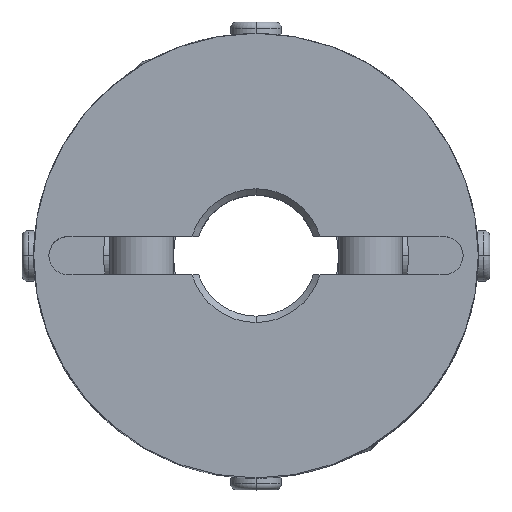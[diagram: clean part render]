
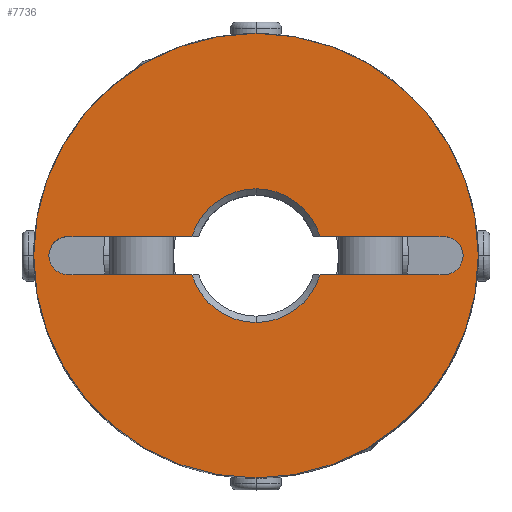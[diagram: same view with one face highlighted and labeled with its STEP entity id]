
A CAD part, top view. The second image highlights one B-rep face of the part: STEP entity #7736.
In plain terms, the highlighted planar face has unit normal (0, 0, 1).
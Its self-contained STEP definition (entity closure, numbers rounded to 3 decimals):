
#785=CARTESIAN_POINT('',(0.,17.5,17.5));
#786=VERTEX_POINT('',#785);
#793=CARTESIAN_POINT('',(0.,-17.5,17.5));
#794=VERTEX_POINT('',#793);
#795=CARTESIAN_POINT('',(0.0,0.0,17.5));
#796=DIRECTION('',(0.0,0.0,-1.0));
#797=DIRECTION('',(0.0,-1.0,0.0));
#798=AXIS2_PLACEMENT_3D('',#795,#796,#797);
#799=CIRCLE('',#798,17.5);
#800=EDGE_CURVE('',#786,#794,#799,.T.);
#1115=CARTESIAN_POINT('',(15.861,1.061,17.5));
#1116=VERTEX_POINT('',#1115);
#1132=CARTESIAN_POINT('',(14.8,-1.5,17.5));
#1133=VERTEX_POINT('',#1132);
#1140=CARTESIAN_POINT('',(14.8,0.,17.5));
#1141=DIRECTION('',(0.0,0.0,1.0));
#1142=DIRECTION('',(0.707,-0.707,0.0));
#1143=AXIS2_PLACEMENT_3D('',#1140,#1141,#1142);
#1144=CIRCLE('',#1143,1.5);
#1145=EDGE_CURVE('',#1133,#1116,#1144,.T.);
#1157=CARTESIAN_POINT('',(-15.861,-1.061,17.5));
#1158=VERTEX_POINT('',#1157);
#1174=CARTESIAN_POINT('',(-14.8,1.5,17.5));
#1175=VERTEX_POINT('',#1174);
#1182=CARTESIAN_POINT('',(-14.8,0.,17.5));
#1183=DIRECTION('',(0.0,0.0,1.0));
#1184=DIRECTION('',(-0.707,0.707,0.0));
#1185=AXIS2_PLACEMENT_3D('',#1182,#1183,#1184);
#1186=CIRCLE('',#1185,1.5);
#1187=EDGE_CURVE('',#1175,#1158,#1186,.T.);
#2307=CARTESIAN_POINT('',(0.,5.262,17.5));
#2308=VERTEX_POINT('',#2307);
#2316=CARTESIAN_POINT('',(5.044,1.5,17.5));
#2317=VERTEX_POINT('',#2316);
#2331=CARTESIAN_POINT('',(0.,0.,17.5));
#2332=DIRECTION('',(0.0,0.0,1.0));
#2333=DIRECTION('',(0.0,1.0,0.0));
#2334=AXIS2_PLACEMENT_3D('',#2331,#2332,#2333);
#2335=CIRCLE('',#2334,5.263);
#2336=EDGE_CURVE('',#2317,#2308,#2335,.T.);
#2346=CARTESIAN_POINT('',(0.,-5.263,17.5));
#2347=VERTEX_POINT('',#2346);
#2363=CARTESIAN_POINT('',(-5.044,-1.5,17.5));
#2364=VERTEX_POINT('',#2363);
#2378=CARTESIAN_POINT('',(0.,0.,17.5));
#2379=DIRECTION('',(0.0,0.0,1.0));
#2380=DIRECTION('',(0.0,-1.0,0.0));
#2381=AXIS2_PLACEMENT_3D('',#2378,#2379,#2380);
#2382=CIRCLE('',#2381,5.263);
#2383=EDGE_CURVE('',#2364,#2347,#2382,.T.);
#7452=CARTESIAN_POINT('',(14.8,1.5,17.5));
#7453=VERTEX_POINT('',#7452);
#7460=CARTESIAN_POINT('',(5.044,1.5,17.5));
#7461=DIRECTION('',(1.0,0.0,0.0));
#7462=VECTOR('',#7461,9.756);
#7463=LINE('',#7460,#7462);
#7464=EDGE_CURVE('',#2317,#7453,#7463,.T.);
#7621=CARTESIAN_POINT('',(5.044,-1.5,17.5));
#7622=VERTEX_POINT('',#7621);
#7636=CARTESIAN_POINT('',(14.8,-1.5,17.5));
#7637=DIRECTION('',(-1.0,0.0,0.0));
#7638=VECTOR('',#7637,9.756);
#7639=LINE('',#7636,#7638);
#7640=EDGE_CURVE('',#1133,#7622,#7639,.T.);
#7663=CARTESIAN_POINT('',(0.,0.,17.5));
#7664=DIRECTION('',(0.0,0.0,1.0));
#7665=DIRECTION('',(0.0,-1.0,0.0));
#7666=AXIS2_PLACEMENT_3D('',#7663,#7664,#7665);
#7667=CIRCLE('',#7666,5.263);
#7668=EDGE_CURVE('',#2347,#7622,#7667,.T.);
#7675=CARTESIAN_POINT('',(0.,-1.591,17.5));
#7676=DIRECTION('',(0.0,0.0,1.0));
#7677=DIRECTION('',(0.0,-1.0,0.0));
#7678=AXIS2_PLACEMENT_3D('',#7675,#7676,#7677);
#7679=PLANE('',#7678);
#7680=CARTESIAN_POINT('',(0.0,0.0,17.5));
#7681=DIRECTION('',(0.0,0.0,-1.0));
#7682=DIRECTION('',(0.0,-1.0,0.0));
#7683=AXIS2_PLACEMENT_3D('',#7680,#7681,#7682);
#7684=CIRCLE('',#7683,17.5);
#7685=EDGE_CURVE('',#794,#786,#7684,.T.);
#7686=ORIENTED_EDGE('',*,*,#7685,.F.);
#7687=ORIENTED_EDGE('',*,*,#800,.F.);
#7688=EDGE_LOOP('',(#7686,#7687));
#7689=FACE_OUTER_BOUND('',#7688,.T.);
#7690=ORIENTED_EDGE('',*,*,#2383,.F.);
#7691=CARTESIAN_POINT('',(-14.8,-1.5,17.5));
#7692=VERTEX_POINT('',#7691);
#7693=CARTESIAN_POINT('',(-5.044,-1.5,17.5));
#7694=DIRECTION('',(-1.0,0.0,0.0));
#7695=VECTOR('',#7694,9.756);
#7696=LINE('',#7693,#7695);
#7697=EDGE_CURVE('',#2364,#7692,#7696,.T.);
#7698=ORIENTED_EDGE('',*,*,#7697,.T.);
#7699=CARTESIAN_POINT('',(-14.8,0.,17.5));
#7700=DIRECTION('',(0.0,0.0,1.0));
#7701=DIRECTION('',(-0.707,0.707,0.0));
#7702=AXIS2_PLACEMENT_3D('',#7699,#7700,#7701);
#7703=CIRCLE('',#7702,1.5);
#7704=EDGE_CURVE('',#1158,#7692,#7703,.T.);
#7705=ORIENTED_EDGE('',*,*,#7704,.F.);
#7706=ORIENTED_EDGE('',*,*,#1187,.F.);
#7707=CARTESIAN_POINT('',(-5.044,1.5,17.5));
#7708=VERTEX_POINT('',#7707);
#7709=CARTESIAN_POINT('',(-14.8,1.5,17.5));
#7710=DIRECTION('',(1.0,0.0,0.0));
#7711=VECTOR('',#7710,9.756);
#7712=LINE('',#7709,#7711);
#7713=EDGE_CURVE('',#1175,#7708,#7712,.T.);
#7714=ORIENTED_EDGE('',*,*,#7713,.T.);
#7715=CARTESIAN_POINT('',(0.,0.,17.5));
#7716=DIRECTION('',(0.0,0.0,1.0));
#7717=DIRECTION('',(0.0,1.0,0.0));
#7718=AXIS2_PLACEMENT_3D('',#7715,#7716,#7717);
#7719=CIRCLE('',#7718,5.263);
#7720=EDGE_CURVE('',#2308,#7708,#7719,.T.);
#7721=ORIENTED_EDGE('',*,*,#7720,.F.);
#7722=ORIENTED_EDGE('',*,*,#2336,.F.);
#7723=ORIENTED_EDGE('',*,*,#7464,.T.);
#7724=CARTESIAN_POINT('',(14.8,0.,17.5));
#7725=DIRECTION('',(0.0,0.0,1.0));
#7726=DIRECTION('',(0.707,-0.707,0.0));
#7727=AXIS2_PLACEMENT_3D('',#7724,#7725,#7726);
#7728=CIRCLE('',#7727,1.5);
#7729=EDGE_CURVE('',#1116,#7453,#7728,.T.);
#7730=ORIENTED_EDGE('',*,*,#7729,.F.);
#7731=ORIENTED_EDGE('',*,*,#1145,.F.);
#7732=ORIENTED_EDGE('',*,*,#7640,.T.);
#7733=ORIENTED_EDGE('',*,*,#7668,.F.);
#7734=EDGE_LOOP('',(#7690,#7698,#7705,#7706,#7714,#7721,#7722,#7723,#7730,#7731,#7732,#7733));
#7735=FACE_BOUND('',#7734,.T.);
#7736=ADVANCED_FACE('',(#7689,#7735),#7679,.T.);
